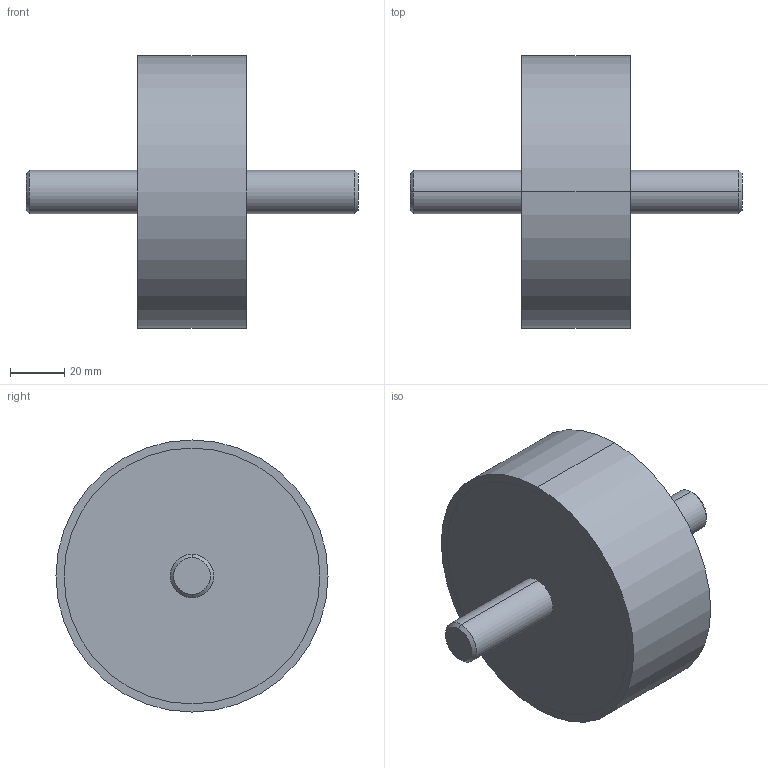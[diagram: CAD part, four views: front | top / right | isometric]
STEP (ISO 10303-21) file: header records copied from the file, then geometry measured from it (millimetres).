
FILE_DESCRIPTION (( 'STEP AP214' ), '1' );
FILE_NAME ('351-100-40-M16-SS-40.step', '2025-07-23T10:02:57', ( '' ), ( '' ), 'SwSTEP 2.0', 'SolidWorks 2022', '' );
FILE_SCHEMA (( 'AUTOMOTIVE_DESIGN' ));
Length unit declared in the file: millimetre
Products named in the file (1): 351-100-40-M16-SS-40
Bounding box: 122 x 100 x 100 mm (x, y, z)
Volume: 330437.1 mm3; surface area: 32325.3 mm2
Topology: 1 solids, 1 shells, 20 faces, 38 edges, 24 vertices
Faces by surface type: cylinder 10, plane 6, cone 4
Entity records: 636 total; most frequent: DIRECTION 104, CARTESIAN_POINT 83, ORIENTED_EDGE 76, AXIS2_PLACEMENT_3D 45, EDGE_CURVE 38, EDGE_LOOP 24, CIRCLE 24, VERTEX_POINT 24
